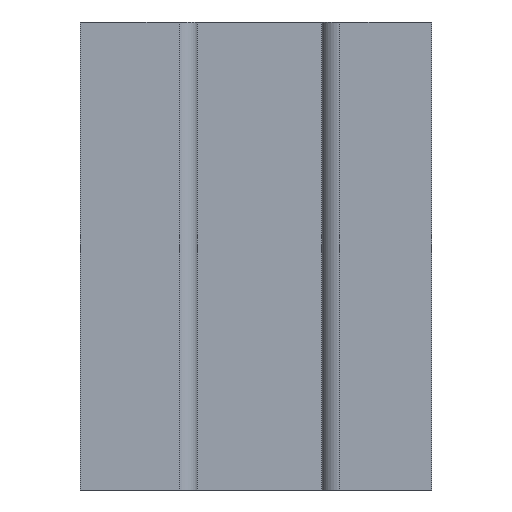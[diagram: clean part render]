
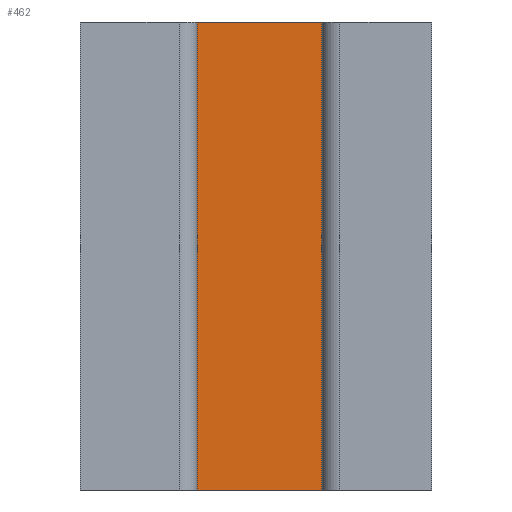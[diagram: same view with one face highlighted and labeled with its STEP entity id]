
A CAD part, left-side view. The second image highlights one B-rep face of the part: STEP entity #462.
In plain terms, the highlighted planar face has unit normal (-1, 0, 0).
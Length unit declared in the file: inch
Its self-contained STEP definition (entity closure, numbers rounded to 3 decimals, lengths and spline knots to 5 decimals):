
#14 = VECTOR ( 'NONE', #619, 39.37008 ) ;
#15 = PLANE ( 'NONE',  #289 ) ;
#27 = EDGE_CURVE ( 'NONE', #252, #508, #410, .T. ) ;
#38 = LINE ( 'NONE', #630, #298 ) ;
#65 = FACE_OUTER_BOUND ( 'NONE', #287, .T. ) ;
#75 = DIRECTION ( 'NONE',  ( -1., 0., 0. ) ) ;
#84 = EDGE_CURVE ( 'NONE', #508, #154, #519, .T. ) ;
#85 = CARTESIAN_POINT ( 'NONE',  ( -2.4705, 0.5, 0. ) ) ;
#118 = VERTEX_POINT ( 'NONE', #85 ) ;
#154 = VERTEX_POINT ( 'NONE', #180 ) ;
#159 = LINE ( 'NONE', #459, #14 ) ;
#172 = ORIENTED_EDGE ( 'NONE', *, *, #84, .T. ) ;
#173 = DIRECTION ( 'NONE',  ( 0., 0., 1. ) ) ;
#180 = CARTESIAN_POINT ( 'NONE',  ( -2.4705, 0.235, 0. ) ) ;
#186 = CARTESIAN_POINT ( 'NONE',  ( -2.4705, 0.5, -1. ) ) ;
#235 = VECTOR ( 'NONE', #419, 39.37008 ) ;
#237 = EDGE_CURVE ( 'NONE', #118, #154, #38, .T. ) ;
#252 = VERTEX_POINT ( 'NONE', #186 ) ;
#262 = CARTESIAN_POINT ( 'NONE',  ( -2.4705, 0.235, -1. ) ) ;
#265 = DIRECTION ( 'NONE',  ( 0., -1., 0. ) ) ;
#278 = VECTOR ( 'NONE', #265, 39.37008 ) ;
#287 = EDGE_LOOP ( 'NONE', ( #525, #306, #441, #172 ) ) ;
#289 = AXIS2_PLACEMENT_3D ( 'NONE', #518, #75, #173 ) ;
#298 = VECTOR ( 'NONE', #527, 39.37008 ) ;
#306 = ORIENTED_EDGE ( 'NONE', *, *, #499, .F. ) ;
#410 = LINE ( 'NONE', #562, #278 ) ;
#419 = DIRECTION ( 'NONE',  ( 0., 0., 1. ) ) ;
#441 = ORIENTED_EDGE ( 'NONE', *, *, #27, .T. ) ;
#459 = CARTESIAN_POINT ( 'NONE',  ( -2.4705, 0.5, -1. ) ) ;
#462 = ADVANCED_FACE ( 'NONE', ( #65 ), #15, .T. ) ;
#499 = EDGE_CURVE ( 'NONE', #252, #118, #159, .T. ) ;
#508 = VERTEX_POINT ( 'NONE', #262 ) ;
#518 = CARTESIAN_POINT ( 'NONE',  ( -2.4705, 0.5, -1. ) ) ;
#519 = LINE ( 'NONE', #572, #235 ) ;
#525 = ORIENTED_EDGE ( 'NONE', *, *, #237, .F. ) ;
#527 = DIRECTION ( 'NONE',  ( 0., -1., 0. ) ) ;
#562 = CARTESIAN_POINT ( 'NONE',  ( -2.4705, 0.5, -1. ) ) ;
#572 = CARTESIAN_POINT ( 'NONE',  ( -2.4705, 0.235, -1. ) ) ;
#619 = DIRECTION ( 'NONE',  ( 0., 0., 1. ) ) ;
#630 = CARTESIAN_POINT ( 'NONE',  ( -2.4705, 0.5, 0. ) ) ;
